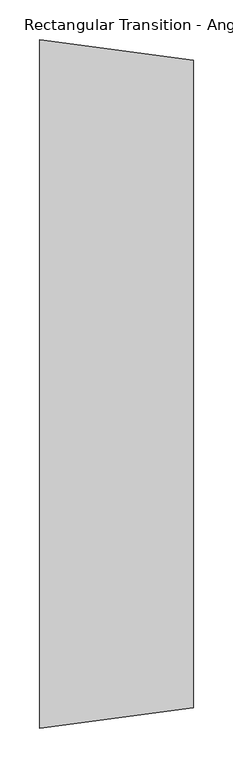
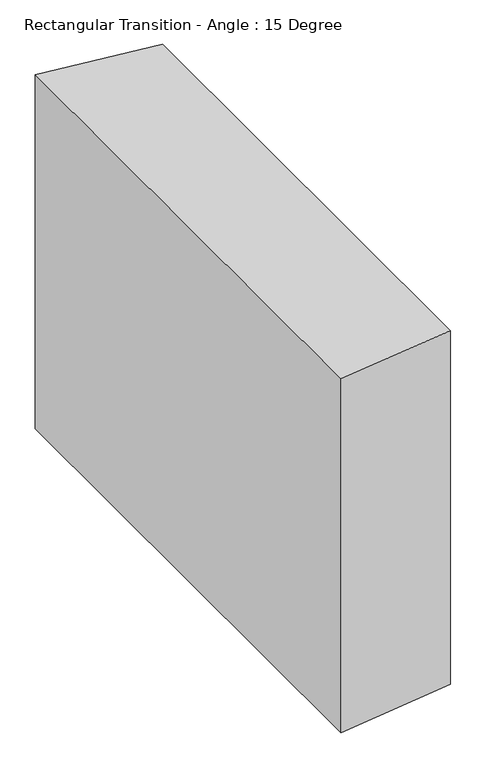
"""IFC4 building model written with IfcOpenShell, lengths in millimetres: duct fitting geometry, Rectangular Transition - Angle : 15 Degree."""

from ifc_helpers import new_model, si_unit, frame, origin, place, context, project, spatial, polyline, outline, extrude, source, transform, mapped, element, save


def rectangular_transition_angle_15_degree_857dea24(model_context):
    return source(origin(), model_context, "Body", "SweptSolid", [
        extrude(outline(polyline([(0.0, -431.8), (0.0, 431.8), (192.9321545, 406.4), (192.9321545, -406.4), (0.0, -431.8)])), frame((0.0, 0.0, -304.8), z_axis=(0.0, 0.0, 1.0), x_axis=(1.0, 0.0, 0.0)), (0.0, 0.0, 1.0), 609.6),
    ])


if __name__ == "__main__":
    model = new_model("IFC4")
    model_context = context("Model", 3, world=origin())
    ifc_project = project(units=[si_unit("LENGTHUNIT", "METRE", prefix="MILLI")], contexts=[model_context])
    site = spatial("IfcSite", under=ifc_project)
    building = spatial("IfcBuilding", under=site)
    placement = place(None, origin())
    rectangular_transition_angle_15_degree_shape = rectangular_transition_angle_15_degree_857dea24(model_context)
    element("IfcDuctFitting", 1, ObjectType="Rectangular Transition - Angle : 15 Degree", at=placement, inside=building, context=model_context, shape_type="MappedRepresentation", body=[
        mapped(rectangular_transition_angle_15_degree_shape, transform((0.0, 0.0, 0.0), x_axis=(1.0, 0.0, 0.0), y_axis=(0.0, 1.0, 0.0), z_axis=(0.0, 0.0, 1.0))),
    ])
    save(model, "model.ifc")
